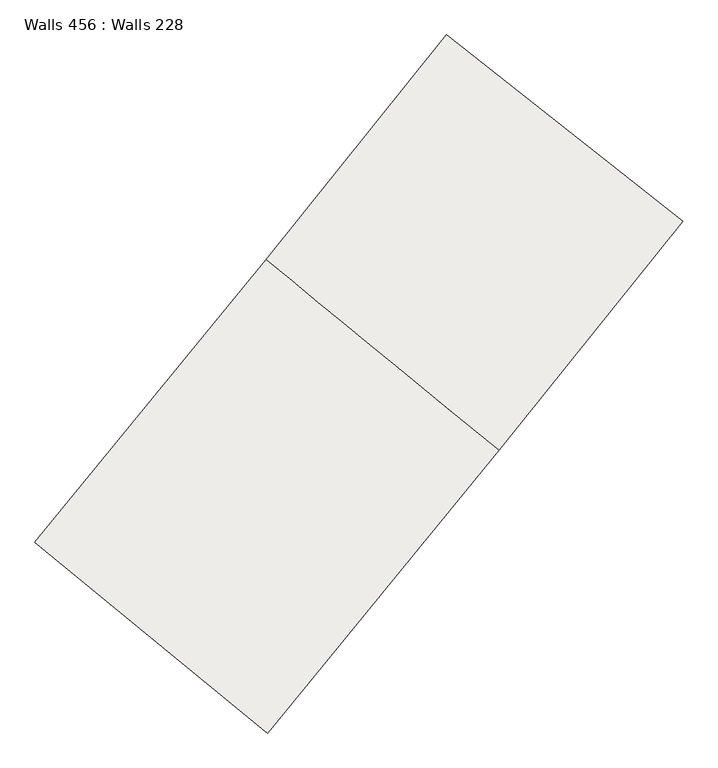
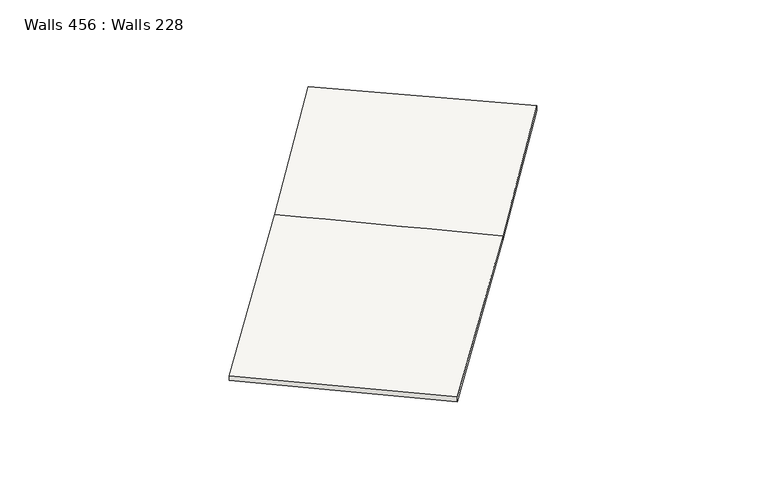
"""IFC4 building model written with IfcOpenShell, lengths in millimetres: slab geometry, Walls 456 : Walls 228."""

from ifc_helpers import new_model, si_unit, frame, origin, place, context, project, spatial, source, transform, mapped, element, save
from ifc_brep_helpers import plane_surface, spline_curve, spline_surface, advanced_brep


def walls_456_walls_228_f4338f7d(model_context):
    return source(origin(), model_context, "Body", "AdvancedBrep", [
        advanced_brep(
        [(415639.5752204, 293137.0571447, 645362.0), (415639.5752204, 293137.0571447, 645262.0), (418735.423663, 290604.1295064, 645262.0), (418735.423663, 290604.1295064, 645362.0), (421807.7325309, 294359.2318946, 645425.0), (418711.8840883, 296892.1595329, 645425.0), (421109.1702727, 299880.1875182, 645474.7), (424252.6259645, 297407.7272715, 645474.7), (424252.6259645, 297407.7272715, 645374.7), (421109.1702727, 299880.1875182, 645374.7), (418711.8840883, 296892.1595329, 645325.0), (421807.7325309, 294359.2318946, 645325.0)],
        [
            (0, 1),
            (1, 2),
            (2, 3),
            (3, 0),
            (3, 4),
            (4, 5, spline_curve(3, [(421807.7325309, 294359.2318946, 645425.0), (420775.783050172, 295203.541107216, 645425.0), (419743.833569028, 296047.850320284, 645425.0), (418711.8840883, 296892.1595329, 645425.0)], [4, 4], [0.0, 13.122205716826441])),
            (5, 0),
            (6, 7),
            (7, 8),
            (8, 9),
            (9, 6),
            (6, 5, spline_curve(3, [(421109.1702727, 299880.1875182, 645474.7), (420319.681367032, 298876.520830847, 645458.133333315), (419520.536660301, 297880.450049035, 645441.566666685), (418711.8840883, 296892.1595329, 645425.0)], [4, 4], [0.0, 12.695815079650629])),
            (4, 7, spline_curve(3, [(421807.7325309, 294359.2318946, 645425.0), (422632.449028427, 295367.526667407, 645441.566666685), (423447.463774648, 296383.75450817, 645458.133333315), (424252.6259645, 297407.7272715, 645474.7)], [4, 4], [0.0, 12.695815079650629])),
            (5, 10, spline_curve(3, [(418711.8840883, 296892.1595329, 645425.0), (418711.8840883, 296892.1595329, 645391.666666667), (418711.8840883, 296892.1595329, 645358.333333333), (418711.8840883, 296892.1595329, 645325.0)], [4, 4], [0.0, 0.3280839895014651])),
            (10, 1),
            (10, 11, spline_curve(3, [(418711.8840883, 296892.1595329, 645325.0), (419743.833569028, 296047.850320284, 645325.0), (420775.783050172, 295203.541107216, 645325.0), (421807.7325309, 294359.2318946, 645325.0)], [4, 4], [0.0, 13.12220571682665])),
            (11, 2),
            (11, 4, spline_curve(3, [(421807.7325309, 294359.2318946, 645325.0), (421807.7325309, 294359.2318946, 645358.333333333), (421807.7325309, 294359.2318946, 645391.666666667), (421807.7325309, 294359.2318946, 645425.0)], [4, 4], [0.0, 0.3280839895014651])),
            (9, 10, spline_curve(3, [(421109.1702727, 299880.1875182, 645374.7), (420319.681367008, 298876.520830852, 645358.133333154), (419520.536660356, 297880.450048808, 645341.566666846), (418711.8840883, 296892.1595329, 645325.0)], [4, 4], [0.0, 12.569583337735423])),
            (8, 11, spline_curve(3, [(424252.6259645, 297407.7272715, 645374.7), (423447.463774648, 296383.75450817, 645358.133333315), (422632.449028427, 295367.526667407, 645341.566666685), (421807.7325309, 294359.2318946, 645325.0)], [4, 4], [0.0, 12.6958150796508])),
        ],
        [
            plane_surface(frame((417187.4994417, 291870.5933256, 645312.0), z_axis=(-0.6332319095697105, -0.7739621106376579, 0.0), x_axis=(0.0, 0.0, -1.0))),
            plane_surface(frame((420259.8083096, 295625.6957138, 645425.0), z_axis=(-0.008221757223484, -0.010048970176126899, 0.9999157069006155), x_axis=(-0.773962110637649, 0.6332319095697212, 0.0))),
            plane_surface(frame((422680.8981186, 298643.9573949, 645424.7), z_axis=(0.6182237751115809, 0.7860021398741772, 0.0), x_axis=(0.0, 0.0, -1.0))),
            spline_surface(3, 3, [[(424252.6259645, 297407.7272715, 645474.7), (423447.463774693, 296383.754508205, 645458.133333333), (422632.449028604, 295367.526667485, 645441.566666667), (421807.7325309, 294359.2318946, 645425.0)], [(423204.807400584, 298231.880687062, 645474.7), (422404.869638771, 297214.676615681, 645458.133333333), (421595.144905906, 296205.167794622, 645441.566666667), (420775.78305005, 295203.54110736, 645425.0)], [(422156.988836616, 299056.034102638, 645474.7), (421362.275502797, 298045.598723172, 645458.133333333), (420557.840783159, 297042.808921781, 645441.566666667), (419743.83356915, 296047.85032014, 645425.0)], [(421109.1702727, 299880.1875182, 645474.7), (420319.681366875, 298876.520830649, 645458.133333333), (419520.536660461, 297880.450048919, 645441.566666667), (418711.8840883, 296892.1595329, 645425.0)]], [4, 4], [4, 4], [0.0, 13.122205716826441], [0.0, 12.695815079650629]),
            plane_surface(frame((418711.8840883, 296892.1595329, 645375.0), z_axis=(-0.7739621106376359, 0.6332319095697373, 0.0), x_axis=(0.0, 0.0, -1.0))),
            plane_surface(frame((420259.8083096, 295625.6957138, 645325.0), z_axis=(0.008221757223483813, 0.010048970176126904, -0.9999157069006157), x_axis=(0.7739621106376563, -0.6332319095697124, 0.0))),
            plane_surface(frame((421807.7325309, 294359.2318946, 645375.0), z_axis=(0.773962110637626, -0.6332319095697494, 0.0), x_axis=(0.0, 0.0, 1.0))),
            spline_surface(3, 3, [[(421109.1702727, 299880.1875182, 645474.7), (420319.681366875, 298876.520830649, 645458.133333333), (419520.536660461, 297880.450048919, 645441.566666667), (418711.8840883, 296892.1595329, 645425.0)], [(421109.1702727, 299880.1875182, 645441.366666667), (420319.681366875, 298876.520830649, 645424.8), (419520.536660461, 297880.450048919, 645408.233333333), (418711.8840883, 296892.1595329, 645391.666666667)], [(421109.1702727, 299880.1875182, 645408.033333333), (420319.681366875, 298876.520830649, 645391.466666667), (419520.536660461, 297880.450048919, 645374.9), (418711.8840883, 296892.1595329, 645358.333333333)], [(421109.1702727, 299880.1875182, 645374.7), (420319.681366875, 298876.520830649, 645358.133333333), (419520.536660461, 297880.450048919, 645341.566666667), (418711.8840883, 296892.1595329, 645325.0)]], [4, 4], [4, 4], [0.0, 0.3280839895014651], [0.0, 12.569583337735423]),
            spline_surface(3, 3, [[(421109.1702727, 299880.1875182, 645374.7), (420319.681366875, 298876.520830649, 645358.133333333), (419520.536660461, 297880.450048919, 645341.566666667), (418711.8840883, 296892.1595329, 645325.0)], [(422156.988836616, 299056.034102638, 645374.7), (421362.275502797, 298045.598723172, 645358.133333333), (420557.840783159, 297042.808921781, 645341.566666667), (419743.83356915, 296047.85032014, 645325.0)], [(423204.807400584, 298231.880687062, 645374.7), (422404.869638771, 297214.676615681, 645358.133333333), (421595.144905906, 296205.167794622, 645341.566666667), (420775.78305005, 295203.54110736, 645325.0)], [(424252.6259645, 297407.7272715, 645374.7), (423447.463774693, 296383.754508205, 645358.133333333), (422632.449028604, 295367.526667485, 645341.566666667), (421807.7325309, 294359.2318946, 645325.0)]], [4, 4], [4, 4], [0.0, 13.12220571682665], [0.0, 12.6958150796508]),
            spline_surface(3, 3, [[(424252.6259645, 297407.7272715, 645374.7), (423447.463774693, 296383.754508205, 645358.133333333), (422632.449028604, 295367.526667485, 645341.566666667), (421807.7325309, 294359.2318946, 645325.0)], [(424252.6259645, 297407.7272715, 645408.033333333), (423447.463774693, 296383.754508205, 645391.466666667), (422632.449028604, 295367.526667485, 645374.9), (421807.7325309, 294359.2318946, 645358.333333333)], [(424252.6259645, 297407.7272715, 645441.366666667), (423447.463774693, 296383.754508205, 645424.8), (422632.449028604, 295367.526667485, 645408.233333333), (421807.7325309, 294359.2318946, 645391.666666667)], [(424252.6259645, 297407.7272715, 645474.7), (423447.463774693, 296383.754508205, 645458.133333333), (422632.449028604, 295367.526667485, 645441.566666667), (421807.7325309, 294359.2318946, 645425.0)]], [4, 4], [4, 4], [0.0, 0.3280839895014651], [0.0, 12.822047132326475]),
        ],
        [
            (0, [[1, 2, 3, 4]]),
            (1, [[-4, 5, 6, 7]]),
            (2, [[8, 9, 10, 11]]),
            (3, [[-8, 12, -6, 13]]),
            (4, [[-1, -7, 14, 15]]),
            (5, [[-2, -15, 16, 17]]),
            (6, [[-3, -17, 18, -5]]),
            (7, [[-11, 19, -14, -12]]),
            (8, [[-10, 20, -16, -19]]),
            (9, [[-9, -13, -18, -20]]),
        ],
    ),
    ])


if __name__ == "__main__":
    model = new_model("IFC4")
    model_context = context("Model", 3, world=origin())
    ifc_project = project(units=[si_unit("LENGTHUNIT", "METRE", prefix="MILLI")], contexts=[model_context])
    site = spatial("IfcSite", under=ifc_project)
    building = spatial("IfcBuilding", under=site)
    placement = place(None, origin())
    walls_456_walls_228_shape = walls_456_walls_228_f4338f7d(model_context)
    element("IfcSlab", 1, ObjectType="Walls 456 : Walls 228", at=placement, inside=building, context=model_context, shape_type="MappedRepresentation", body=[
        mapped(walls_456_walls_228_shape, transform((0.0, 0.0, 0.0), x_axis=(1.0, 0.0, 0.0), y_axis=(0.0, 1.0, 0.0), z_axis=(0.0, 0.0, 1.0))),
    ])
    save(model, "model.ifc")
